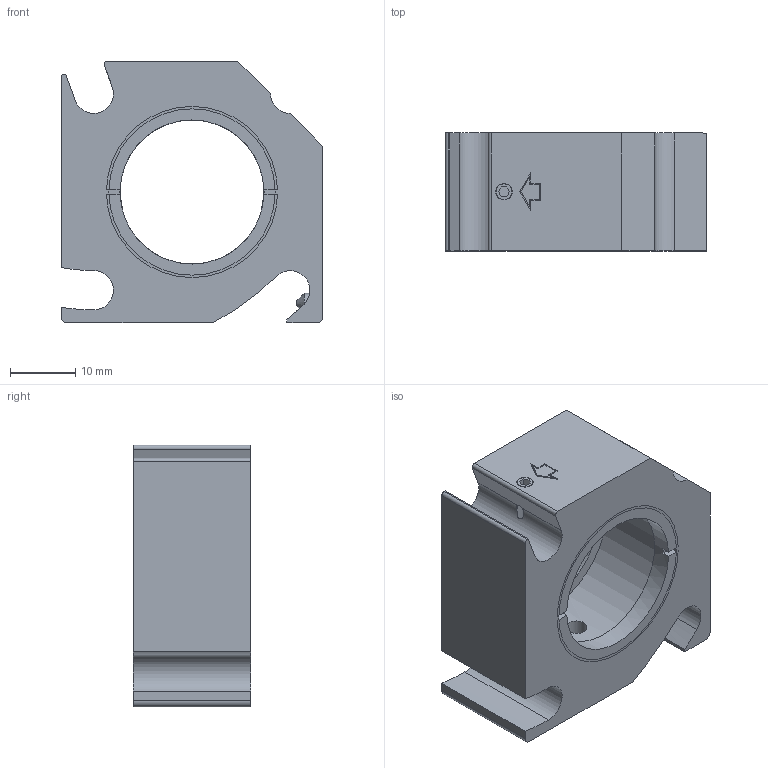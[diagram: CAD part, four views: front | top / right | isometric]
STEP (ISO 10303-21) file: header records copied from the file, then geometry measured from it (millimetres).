
FILE_DESCRIPTION(/* description */ (''),/* implementation_level */ '2;1');
FILE_NAME(/* name */ 'Y:\2_OpticalHard\08_Cage Systems\C30ｼﾘｰｽﾞ\C30-SLFH-25.4A\C30-SLFH-25.4A.stp',/* time_stamp */ '2017-05-09T13:18:02+09:00',/* author */ ('e.nonaka'),/* organization */ (''),/* preprocessor_version */ 'ST-DEVELOPER v16.1',/* originating_system */ 'Autodesk Inventor 2016',/* authorisation */ '');
FILE_SCHEMA (('AUTOMOTIVE_DESIGN { 1 0 10303 214 3 1 1 }'));
Length unit declared in the file: millimetre
Products named in the file (1): C30SLFH25.4A-M02-17001-TS01
Bounding box: 40 x 18 x 40 mm (x, y, z)
Volume: 16003.8 mm3; surface area: 7146.6 mm2
Topology: 1 solids, 1 shells, 100 faces, 269 edges, 178 vertices
Faces by surface type: plane 70, cylinder 25, cone 5
Full cylindrical faces by diameter (mm): 2.5 x3, 3.3 x1, 22 x2, 25.4 x1
Entity records: 3220 total; most frequent: CARTESIAN_POINT 637, DIRECTION 508, ORIENTED_EDGE 490, EDGE_CURVE 245, AXIS2_PLACEMENT_3D 170, LINE 168, VECTOR 168, VERTEX_POINT 167
